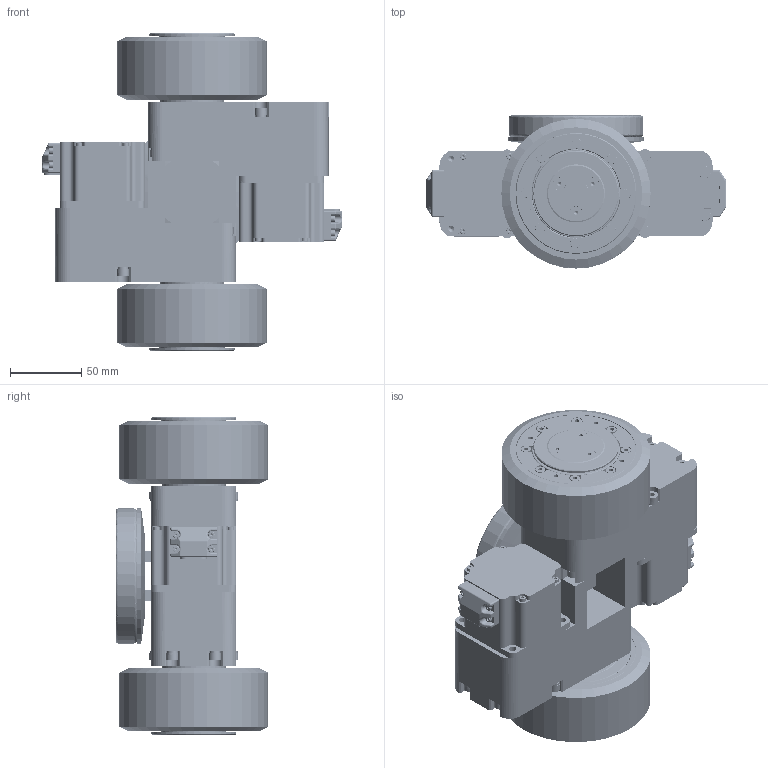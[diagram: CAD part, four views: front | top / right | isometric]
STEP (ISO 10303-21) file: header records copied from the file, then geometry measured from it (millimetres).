
FILE_DESCRIPTION (( 'STEP AP214' ), '1' );
FILE_NAME ('TEC-105P200BS-11.6-48D.STEP', '2022-06-24T03:17:03', ( 'admin' ), ( 'Microsoft' ), 'SwSTEP 2.0', 'SolidWorks 2012', '' );
FILE_SCHEMA (( 'AUTOMOTIVE_DESIGN' ));
Length unit declared in the file: millimetre
Products named in the file (1): TEC-105P200BS-11.6-48D
Bounding box: 211 x 107.5 x 224 mm (x, y, z)
Volume: 1787999.2 mm3; surface area: 373914.6 mm2
Topology: 68 solids, 101 shells, 4567 faces, 12344 edges, 7822 vertices
Faces by surface type: plane 1547, cylinder 1506, bspline 1008, cone 506
Entity records: 172273 total; most frequent: CARTESIAN_POINT 61666, ORIENTED_EDGE 24108, DIRECTION 22022, EDGE_CURVE 12054, AXIS2_PLACEMENT_3D 8738, VERTEX_POINT 7807, EDGE_LOOP 5187, CIRCLE 5178
